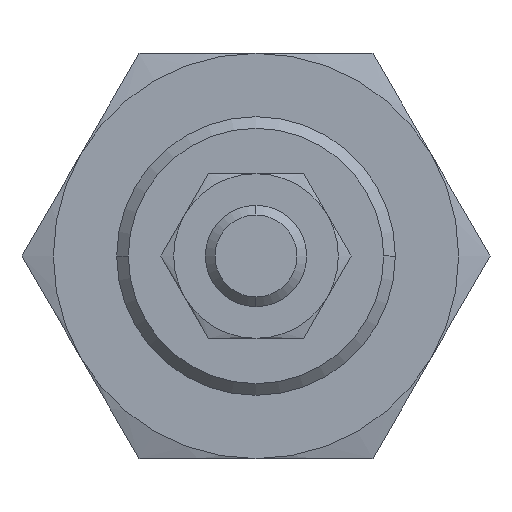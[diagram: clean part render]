
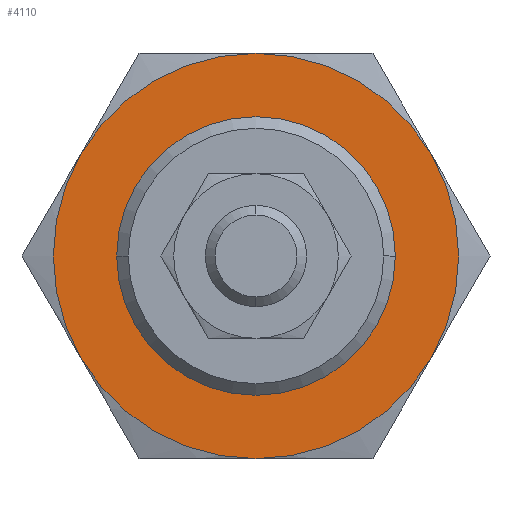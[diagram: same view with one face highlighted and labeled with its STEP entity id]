
A CAD part, left-side view. The second image highlights one B-rep face of the part: STEP entity #4110.
In plain terms, the highlighted planar face has unit normal (-1, 0, 0).
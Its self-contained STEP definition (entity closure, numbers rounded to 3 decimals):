
#34 = EDGE_CURVE ( 'NONE', #1492, #2786, #812, .T. ) ;
#67 = FACE_OUTER_BOUND ( 'NONE', #1770, .T. ) ;
#156 = ORIENTED_EDGE ( 'NONE', *, *, #34, .F. ) ;
#164 = DIRECTION ( 'NONE',  ( 0., 0., -1. ) ) ;
#197 = EDGE_CURVE ( 'NONE', #3760, #1492, #2087, .T. ) ;
#199 = CARTESIAN_POINT ( 'NONE',  ( -16.5, 0., 0. ) ) ;
#211 = CARTESIAN_POINT ( 'NONE',  ( -16.5, 0., -16. ) ) ;
#259 = CIRCLE ( 'NONE', #3489, 16. ) ;
#298 = AXIS2_PLACEMENT_3D ( 'NONE', #837, #491, #906 ) ;
#311 = CARTESIAN_POINT ( 'NONE',  ( -16.5, 0., -11. ) ) ;
#382 = CIRCLE ( 'NONE', #3542, 11. ) ;
#491 = DIRECTION ( 'NONE',  ( 1., 0., 0. ) ) ;
#525 = DIRECTION ( 'NONE',  ( 1., 0., 0. ) ) ;
#612 = ORIENTED_EDGE ( 'NONE', *, *, #1832, .T. ) ;
#637 = EDGE_CURVE ( 'NONE', #1370, #3404, #1195, .T. ) ;
#812 = CIRCLE ( 'NONE', #1926, 16. ) ;
#837 = CARTESIAN_POINT ( 'NONE',  ( -16.5, 0., 0. ) ) ;
#846 = AXIS2_PLACEMENT_3D ( 'NONE', #2852, #2528, #3837 ) ;
#906 = DIRECTION ( 'NONE',  ( 0., 0., -1. ) ) ;
#977 = EDGE_CURVE ( 'NONE', #1669, #4148, #1935, .T. ) ;
#1021 = DIRECTION ( 'NONE',  ( 1., 0., 0. ) ) ;
#1035 = CARTESIAN_POINT ( 'NONE',  ( -16.5, 0., 11. ) ) ;
#1050 = CIRCLE ( 'NONE', #3451, 16. ) ;
#1158 = CARTESIAN_POINT ( 'NONE',  ( -16.5, 0., 0. ) ) ;
#1186 = VERTEX_POINT ( 'NONE', #3933 ) ;
#1195 = CIRCLE ( 'NONE', #846, 16. ) ;
#1221 = DIRECTION ( 'NONE',  ( 1., 0., 0. ) ) ;
#1351 = DIRECTION ( 'NONE',  ( 1., 0., 0. ) ) ;
#1370 = VERTEX_POINT ( 'NONE', #2780 ) ;
#1473 = AXIS2_PLACEMENT_3D ( 'NONE', #2929, #1021, #3943 ) ;
#1492 = VERTEX_POINT ( 'NONE', #211 ) ;
#1593 = ORIENTED_EDGE ( 'NONE', *, *, #3113, .F. ) ;
#1646 = PLANE ( 'NONE',  #1987 ) ;
#1669 = VERTEX_POINT ( 'NONE', #311 ) ;
#1770 = EDGE_LOOP ( 'NONE', ( #1981, #156, #3318, #3100, #2032, #1593 ) ) ;
#1832 = EDGE_CURVE ( 'NONE', #4148, #1669, #382, .T. ) ;
#1853 = DIRECTION ( 'NONE',  ( 0., 0., -1. ) ) ;
#1895 = CARTESIAN_POINT ( 'NONE',  ( -16.5, 0., 0. ) ) ;
#1926 = AXIS2_PLACEMENT_3D ( 'NONE', #1895, #1221, #3252 ) ;
#1935 = CIRCLE ( 'NONE', #3095, 11. ) ;
#1981 = ORIENTED_EDGE ( 'NONE', *, *, #3586, .F. ) ;
#1983 = CARTESIAN_POINT ( 'NONE',  ( -16.5, -13.856, 8. ) ) ;
#1987 = AXIS2_PLACEMENT_3D ( 'NONE', #3292, #2312, #3623 ) ;
#2012 = FACE_BOUND ( 'NONE', #3423, .T. ) ;
#2030 = CIRCLE ( 'NONE', #298, 16. ) ;
#2032 = ORIENTED_EDGE ( 'NONE', *, *, #637, .F. ) ;
#2087 = CIRCLE ( 'NONE', #1473, 16. ) ;
#2200 = EDGE_CURVE ( 'NONE', #3404, #3760, #1050, .T. ) ;
#2312 = DIRECTION ( 'NONE',  ( -1., 0., 0. ) ) ;
#2442 = ORIENTED_EDGE ( 'NONE', *, *, #977, .T. ) ;
#2504 = DIRECTION ( 'NONE',  ( 1., 0., 0. ) ) ;
#2528 = DIRECTION ( 'NONE',  ( 1., 0., 0. ) ) ;
#2780 = CARTESIAN_POINT ( 'NONE',  ( -16.5, 0., 16. ) ) ;
#2786 = VERTEX_POINT ( 'NONE', #3389 ) ;
#2852 = CARTESIAN_POINT ( 'NONE',  ( -16.5, 0., 0. ) ) ;
#2929 = CARTESIAN_POINT ( 'NONE',  ( -16.5, 0., 0. ) ) ;
#2972 = DIRECTION ( 'NONE',  ( 0., 0., -1. ) ) ;
#3095 = AXIS2_PLACEMENT_3D ( 'NONE', #199, #2504, #3813 ) ;
#3100 = ORIENTED_EDGE ( 'NONE', *, *, #2200, .F. ) ;
#3113 = EDGE_CURVE ( 'NONE', #1186, #1370, #2030, .T. ) ;
#3136 = CARTESIAN_POINT ( 'NONE',  ( -16.5, 0., 0. ) ) ;
#3252 = DIRECTION ( 'NONE',  ( 0., 0., -1. ) ) ;
#3292 = CARTESIAN_POINT ( 'NONE',  ( -16.5, 16., 0. ) ) ;
#3318 = ORIENTED_EDGE ( 'NONE', *, *, #197, .F. ) ;
#3389 = CARTESIAN_POINT ( 'NONE',  ( -16.5, 13.856, -8. ) ) ;
#3404 = VERTEX_POINT ( 'NONE', #1983 ) ;
#3423 = EDGE_LOOP ( 'NONE', ( #612, #2442 ) ) ;
#3451 = AXIS2_PLACEMENT_3D ( 'NONE', #3710, #1351, #2972 ) ;
#3489 = AXIS2_PLACEMENT_3D ( 'NONE', #3136, #4122, #1853 ) ;
#3542 = AXIS2_PLACEMENT_3D ( 'NONE', #1158, #525, #164 ) ;
#3563 = CARTESIAN_POINT ( 'NONE',  ( -16.5, -13.856, -8. ) ) ;
#3586 = EDGE_CURVE ( 'NONE', #2786, #1186, #259, .T. ) ;
#3623 = DIRECTION ( 'NONE',  ( 0., 0., 1. ) ) ;
#3710 = CARTESIAN_POINT ( 'NONE',  ( -16.5, 0., 0. ) ) ;
#3760 = VERTEX_POINT ( 'NONE', #3563 ) ;
#3813 = DIRECTION ( 'NONE',  ( 0., 0., -1. ) ) ;
#3837 = DIRECTION ( 'NONE',  ( 0., 0., -1. ) ) ;
#3933 = CARTESIAN_POINT ( 'NONE',  ( -16.5, 13.856, 8. ) ) ;
#3943 = DIRECTION ( 'NONE',  ( 0., 0., -1. ) ) ;
#4110 = ADVANCED_FACE ( 'NONE', ( #67, #2012 ), #1646, .T. ) ;
#4122 = DIRECTION ( 'NONE',  ( 1., 0., 0. ) ) ;
#4148 = VERTEX_POINT ( 'NONE', #1035 ) ;
